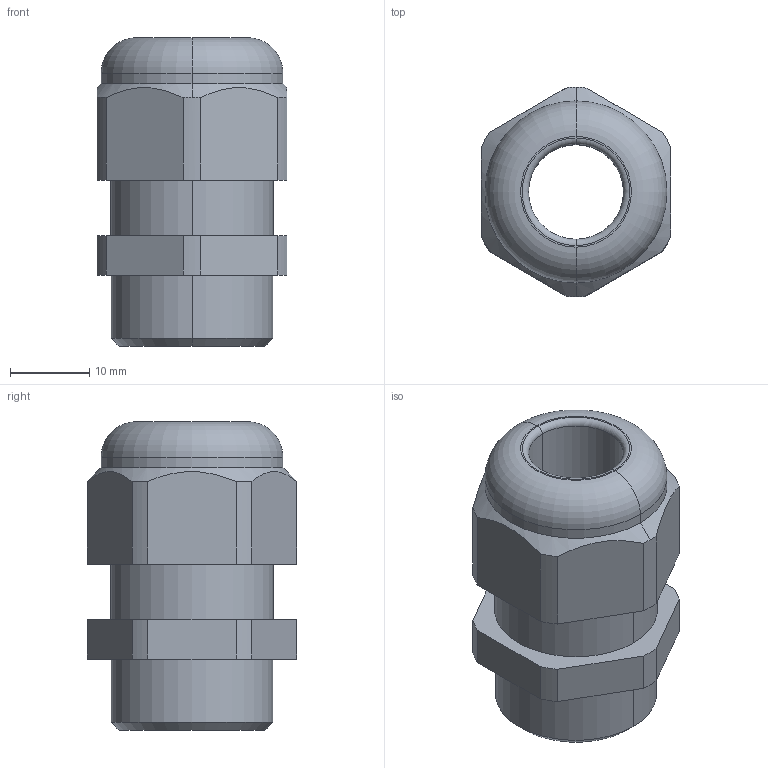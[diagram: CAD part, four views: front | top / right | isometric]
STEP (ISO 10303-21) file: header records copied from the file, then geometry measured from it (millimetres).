
FILE_DESCRIPTION (( 'STEP AP203' ), '1' );
FILE_NAME ('50.013 PA.STEP', '2006-11-07T08:26:49', ( ' ' ), ( '' ), 'SwSTEP 2.0', 'SolidWorks 2005278', '' );
FILE_SCHEMA (( 'CONFIG_CONTROL_DESIGN' ));
Length unit declared in the file: millimetre
Products named in the file (1): 50.013 PA
Bounding box: 24 x 26.5 x 39 mm (x, y, z)
Volume: 11390.5 mm3; surface area: 5128.3 mm2
Topology: 1 solids, 1 shells, 86 faces, 223 edges, 145 vertices
Faces by surface type: plane 54, cylinder 22, torus 6, cone 4
Entity records: 2769 total; most frequent: CARTESIAN_POINT 537, DIRECTION 450, ORIENTED_EDGE 446, EDGE_CURVE 223, VECTOR 158, LINE 158, AXIS2_PLACEMENT_3D 146, VERTEX_POINT 145
